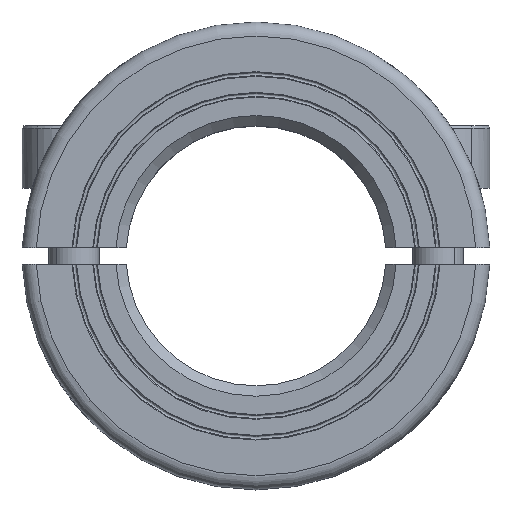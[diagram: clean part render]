
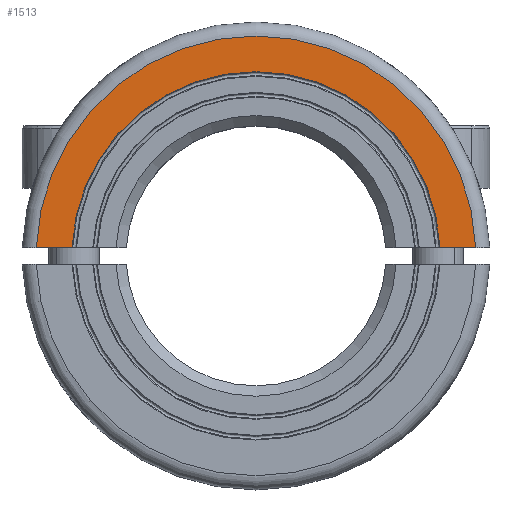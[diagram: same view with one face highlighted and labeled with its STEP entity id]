
A CAD part, top view. The second image highlights one B-rep face of the part: STEP entity #1513.
In plain terms, the highlighted planar face has unit normal (0, 0, 1).
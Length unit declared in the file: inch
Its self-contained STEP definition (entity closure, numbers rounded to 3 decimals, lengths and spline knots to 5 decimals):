
#127=CARTESIAN_POINT('',(0.83208,0.0313,
0.59055));
#281=DIRECTION('',(-1.,0.,0.));
#282=VECTOR('',#281,0.13515);
#283=CARTESIAN_POINT('',(-0.69693,0.03133,
0.59055));
#284=LINE('',#283,#282);
#386=CARTESIAN_POINT('',(0.,0.,0.59055));
#387=DIRECTION('',(0.,0.,1.));
#388=DIRECTION('',(0.999,0.038,0.));
#389=AXIS2_PLACEMENT_3D('',#386,#387,#388);
#391=DIRECTION('',(1.,0.,0.));
#392=VECTOR('',#391,0.13515);
#393=CARTESIAN_POINT('',(0.69693,0.03133,
0.59055));
#394=LINE('',#393,#392);
#400=CARTESIAN_POINT('',(0.,0.,0.59055));
#401=DIRECTION('',(0.,0.,-1.));
#402=DIRECTION('',(-0.999,0.045,0.));
#403=AXIS2_PLACEMENT_3D('',#400,#401,#402);
#405=CARTESIAN_POINT('',(0.69693,0.03133,
0.59055));
#891=VERTEX_POINT('',#127);
#894=VERTEX_POINT('',#405);
#941=CARTESIAN_POINT('',(-0.69693,0.03133,
0.59055));
#942=CARTESIAN_POINT('',(-0.83208,0.0313,
0.59055));
#943=VERTEX_POINT('',#941);
#944=VERTEX_POINT('',#942);
#1501=CARTESIAN_POINT('',(0.,0.,0.59055));
#1502=DIRECTION('',(0.,0.,1.));
#1503=DIRECTION('',(0.707,-0.707,0.));
#1504=AXIS2_PLACEMENT_3D('',#1501,#1502,#1503);
#1505=PLANE('',#1504);
#1507=ORIENTED_EDGE('',*,*,#1506,.F.);
#1508=ORIENTED_EDGE('',*,*,#1467,.T.);
#1509=ORIENTED_EDGE('',*,*,#1145,.F.);
#1510=ORIENTED_EDGE('',*,*,#1168,.F.);
#1511=EDGE_LOOP('',(#1507,#1508,#1509,#1510));
#1512=FACE_OUTER_BOUND('',#1511,.F.);
#390=CIRCLE('',#389,0.83268);
#404=CIRCLE('',#403,0.69764);
#1145=EDGE_CURVE('',#891,#944,#390,.T.);
#1168=EDGE_CURVE('',#894,#891,#394,.T.);
#1467=EDGE_CURVE('',#943,#944,#284,.T.);
#1506=EDGE_CURVE('',#943,#894,#404,.T.);
#1513=ADVANCED_FACE('',(#1512),#1505,.T.);
